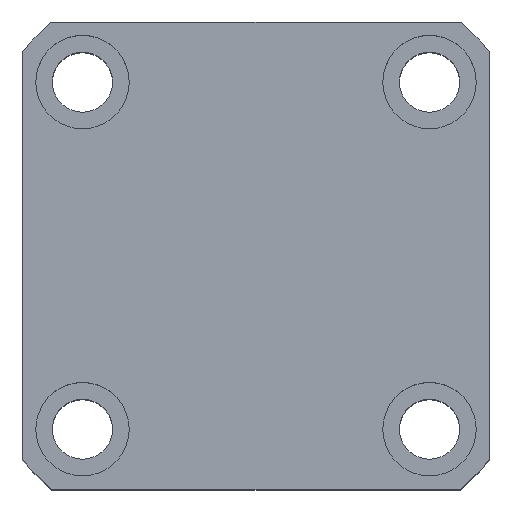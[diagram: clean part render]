
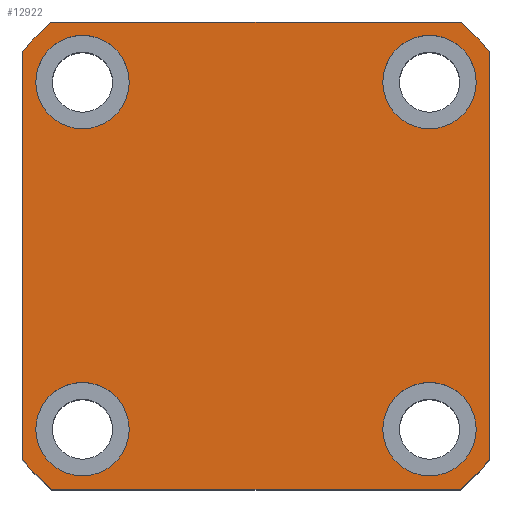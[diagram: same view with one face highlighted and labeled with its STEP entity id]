
A CAD part, top view. The second image highlights one B-rep face of the part: STEP entity #12922.
In plain terms, the highlighted planar face has unit normal (0, 0, 1).
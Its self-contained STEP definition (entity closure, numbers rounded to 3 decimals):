
#27 = DIRECTION ( 'NONE',  ( 0., 0., 1. ) ) ;
#38 = EDGE_LOOP ( 'NONE', ( #413, #6936 ) ) ;
#100 = CARTESIAN_POINT ( 'NONE',  ( 0., 0., 70. ) ) ;
#149 = ORIENTED_EDGE ( 'NONE', *, *, #10955, .F. ) ;
#156 = AXIS2_PLACEMENT_3D ( 'NONE', #100, #6372, #12611 ) ;
#221 = EDGE_LOOP ( 'NONE', ( #844, #534 ) ) ;
#389 = CARTESIAN_POINT ( 'NONE',  ( 0., 0., 70. ) ) ;
#413 = ORIENTED_EDGE ( 'NONE', *, *, #11944, .F. ) ;
#534 = ORIENTED_EDGE ( 'NONE', *, *, #9548, .F. ) ;
#551 = DIRECTION ( 'NONE',  ( 0., 0., 1. ) ) ;
#578 = EDGE_CURVE ( 'NONE', #8503, #8902, #7263, .T. ) ;
#663 = CARTESIAN_POINT ( 'NONE',  ( 35., 35., 70. ) ) ;
#768 = ORIENTED_EDGE ( 'NONE', *, *, #1852, .F. ) ;
#844 = ORIENTED_EDGE ( 'NONE', *, *, #4444, .F. ) ;
#973 = CARTESIAN_POINT ( 'NONE',  ( 19., 26., 70. ) ) ;
#1040 = CARTESIAN_POINT ( 'NONE',  ( -30.615, -35., 70. ) ) ;
#1053 = CIRCLE ( 'NONE', #9252, 7. ) ;
#1076 = CARTESIAN_POINT ( 'NONE',  ( -26., 26., 70. ) ) ;
#1204 = CIRCLE ( 'NONE', #2853, 7. ) ;
#1215 = LINE ( 'NONE', #663, #9199 ) ;
#1370 = DIRECTION ( 'NONE',  ( 0., 0., 1. ) ) ;
#1517 = CIRCLE ( 'NONE', #10084, 7. ) ;
#1574 = CARTESIAN_POINT ( 'NONE',  ( -26., -26., 70. ) ) ;
#1719 = VECTOR ( 'NONE', #4085, 1000. ) ;
#1725 = DIRECTION ( 'NONE',  ( 0., 1., 0. ) ) ;
#1852 = EDGE_CURVE ( 'NONE', #3552, #7673, #5650, .T. ) ;
#1957 = CARTESIAN_POINT ( 'NONE',  ( -33., -26., 70. ) ) ;
#2087 = CIRCLE ( 'NONE', #12502, 46.5 ) ;
#2135 = DIRECTION ( 'NONE',  ( 1., 0., 0. ) ) ;
#2209 = FACE_OUTER_BOUND ( 'NONE', #6251, .T. ) ;
#2406 = EDGE_CURVE ( 'NONE', #5632, #2567, #13474, .T. ) ;
#2485 = EDGE_CURVE ( 'NONE', #12648, #5632, #8222, .T. ) ;
#2567 = VERTEX_POINT ( 'NONE', #3318 ) ;
#2631 = DIRECTION ( 'NONE',  ( 1., 0., 0. ) ) ;
#2753 = EDGE_CURVE ( 'NONE', #7539, #8019, #1053, .T. ) ;
#2793 = DIRECTION ( 'NONE',  ( 0., 0., 1. ) ) ;
#2853 = AXIS2_PLACEMENT_3D ( 'NONE', #9014, #2793, #10071 ) ;
#2865 = FACE_BOUND ( 'NONE', #3052, .T. ) ;
#2954 = CARTESIAN_POINT ( 'NONE',  ( 19., -26., 70. ) ) ;
#3003 = ORIENTED_EDGE ( 'NONE', *, *, #578, .T. ) ;
#3052 = EDGE_LOOP ( 'NONE', ( #13300, #149 ) ) ;
#3301 = EDGE_CURVE ( 'NONE', #11129, #6616, #1215, .T. ) ;
#3318 = CARTESIAN_POINT ( 'NONE',  ( -35., 30.615, 70. ) ) ;
#3552 = VERTEX_POINT ( 'NONE', #2954 ) ;
#3650 = DIRECTION ( 'NONE',  ( 0., 0., 1. ) ) ;
#3664 = ORIENTED_EDGE ( 'NONE', *, *, #2406, .T. ) ;
#3697 = CIRCLE ( 'NONE', #7466, 7. ) ;
#3914 = CARTESIAN_POINT ( 'NONE',  ( 33., -26., 70. ) ) ;
#3978 = ORIENTED_EDGE ( 'NONE', *, *, #2485, .T. ) ;
#4023 = CIRCLE ( 'NONE', #7378, 7. ) ;
#4085 = DIRECTION ( 'NONE',  ( 1., 0., 0. ) ) ;
#4382 = CIRCLE ( 'NONE', #4995, 46.5 ) ;
#4392 = CARTESIAN_POINT ( 'NONE',  ( 35., -30.615, 70. ) ) ;
#4425 = EDGE_CURVE ( 'NONE', #8902, #11129, #10169, .T. ) ;
#4444 = EDGE_CURVE ( 'NONE', #11999, #12427, #1517, .T. ) ;
#4531 = EDGE_CURVE ( 'NONE', #7673, #3552, #1204, .T. ) ;
#4570 = CARTESIAN_POINT ( 'NONE',  ( 0., 0., 70. ) ) ;
#4627 = EDGE_LOOP ( 'NONE', ( #13418, #768 ) ) ;
#4700 = VERTEX_POINT ( 'NONE', #1957 ) ;
#4992 = FACE_BOUND ( 'NONE', #221, .T. ) ;
#4995 = AXIS2_PLACEMENT_3D ( 'NONE', #4570, #11848, #5604 ) ;
#5071 = DIRECTION ( 'NONE',  ( 0., 0., 1. ) ) ;
#5285 = DIRECTION ( 'NONE',  ( 0., 0., 1. ) ) ;
#5311 = CARTESIAN_POINT ( 'NONE',  ( 26., 26., 70. ) ) ;
#5348 = VERTEX_POINT ( 'NONE', #10928 ) ;
#5444 = ORIENTED_EDGE ( 'NONE', *, *, #9746, .T. ) ;
#5604 = DIRECTION ( 'NONE',  ( 1., 0., 0. ) ) ;
#5632 = VERTEX_POINT ( 'NONE', #6234 ) ;
#5650 = CIRCLE ( 'NONE', #13288, 7. ) ;
#5857 = ORIENTED_EDGE ( 'NONE', *, *, #3301, .T. ) ;
#5875 = CARTESIAN_POINT ( 'NONE',  ( -26., 26., 70. ) ) ;
#5891 = CARTESIAN_POINT ( 'NONE',  ( 35., 30.615, 70. ) ) ;
#5934 = VERTEX_POINT ( 'NONE', #6642 ) ;
#6234 = CARTESIAN_POINT ( 'NONE',  ( -30.615, 35., 70. ) ) ;
#6251 = EDGE_LOOP ( 'NONE', ( #5857, #5444, #3978, #3664, #9960, #11491, #3003, #11494 ) ) ;
#6372 = DIRECTION ( 'NONE',  ( 0., 0., 1. ) ) ;
#6564 = DIRECTION ( 'NONE',  ( 0., 0., 1. ) ) ;
#6616 = VERTEX_POINT ( 'NONE', #5891 ) ;
#6642 = CARTESIAN_POINT ( 'NONE',  ( -35., -30.615, 70. ) ) ;
#6806 = CARTESIAN_POINT ( 'NONE',  ( 33., 26., 70. ) ) ;
#6818 = CARTESIAN_POINT ( 'NONE',  ( 0., 0., 70. ) ) ;
#6897 = DIRECTION ( 'NONE',  ( 1., 0., 0. ) ) ;
#6936 = ORIENTED_EDGE ( 'NONE', *, *, #2753, .F. ) ;
#7164 = CARTESIAN_POINT ( 'NONE',  ( -35., -35., 70. ) ) ;
#7263 = LINE ( 'NONE', #7164, #1719 ) ;
#7362 = CARTESIAN_POINT ( 'NONE',  ( -19., 26., 70. ) ) ;
#7378 = AXIS2_PLACEMENT_3D ( 'NONE', #11545, #5285, #12585 ) ;
#7466 = AXIS2_PLACEMENT_3D ( 'NONE', #11303, #5071, #12372 ) ;
#7539 = VERTEX_POINT ( 'NONE', #973 ) ;
#7612 = CARTESIAN_POINT ( 'NONE',  ( 0., 0., 70. ) ) ;
#7673 = VERTEX_POINT ( 'NONE', #3914 ) ;
#7721 = EDGE_CURVE ( 'NONE', #2567, #5934, #13164, .T. ) ;
#7726 = FACE_BOUND ( 'NONE', #38, .T. ) ;
#7780 = PLANE ( 'NONE',  #11284 ) ;
#7838 = DIRECTION ( 'NONE',  ( 1., 0., 0. ) ) ;
#8019 = VERTEX_POINT ( 'NONE', #6806 ) ;
#8222 = LINE ( 'NONE', #12351, #10357 ) ;
#8352 = DIRECTION ( 'NONE',  ( 0., 0., 1. ) ) ;
#8367 = CARTESIAN_POINT ( 'NONE',  ( 26., -26., 70. ) ) ;
#8503 = VERTEX_POINT ( 'NONE', #1040 ) ;
#8652 = DIRECTION ( 'NONE',  ( 1., 0., 0. ) ) ;
#8867 = DIRECTION ( 'NONE',  ( 0., 0., 1. ) ) ;
#8902 = VERTEX_POINT ( 'NONE', #11057 ) ;
#9014 = CARTESIAN_POINT ( 'NONE',  ( 26., -26., 70. ) ) ;
#9109 = EDGE_CURVE ( 'NONE', #5934, #8503, #2087, .T. ) ;
#9179 = DIRECTION ( 'NONE',  ( -1., 0., 0. ) ) ;
#9199 = VECTOR ( 'NONE', #1725, 1000. ) ;
#9252 = AXIS2_PLACEMENT_3D ( 'NONE', #5311, #6564, #9444 ) ;
#9444 = DIRECTION ( 'NONE',  ( 1., 0., 0. ) ) ;
#9548 = EDGE_CURVE ( 'NONE', #12427, #11999, #10555, .T. ) ;
#9706 = CIRCLE ( 'NONE', #9985, 7. ) ;
#9746 = EDGE_CURVE ( 'NONE', #6616, #12648, #4382, .T. ) ;
#9960 = ORIENTED_EDGE ( 'NONE', *, *, #7721, .T. ) ;
#9985 = AXIS2_PLACEMENT_3D ( 'NONE', #1574, #8867, #2631 ) ;
#10071 = DIRECTION ( 'NONE',  ( 1., 0., 0. ) ) ;
#10084 = AXIS2_PLACEMENT_3D ( 'NONE', #5875, #13163, #6897 ) ;
#10169 = CIRCLE ( 'NONE', #12207, 46.5 ) ;
#10319 = CARTESIAN_POINT ( 'NONE',  ( -33., 26., 70. ) ) ;
#10357 = VECTOR ( 'NONE', #9179, 1000. ) ;
#10504 = FACE_BOUND ( 'NONE', #4627, .T. ) ;
#10555 = CIRCLE ( 'NONE', #12935, 7. ) ;
#10635 = CARTESIAN_POINT ( 'NONE',  ( 30.615, 35., 70. ) ) ;
#10928 = CARTESIAN_POINT ( 'NONE',  ( -19., -26., 70. ) ) ;
#10934 = DIRECTION ( 'NONE',  ( 1., 0., 0. ) ) ;
#10955 = EDGE_CURVE ( 'NONE', #4700, #5348, #3697, .T. ) ;
#11057 = CARTESIAN_POINT ( 'NONE',  ( 30.615, -35., 70. ) ) ;
#11129 = VERTEX_POINT ( 'NONE', #4392 ) ;
#11279 = CARTESIAN_POINT ( 'NONE',  ( -35., 35., 70. ) ) ;
#11284 = AXIS2_PLACEMENT_3D ( 'NONE', #389, #3650, #10934 ) ;
#11303 = CARTESIAN_POINT ( 'NONE',  ( -26., -26., 70. ) ) ;
#11319 = EDGE_CURVE ( 'NONE', #5348, #4700, #9706, .T. ) ;
#11491 = ORIENTED_EDGE ( 'NONE', *, *, #9109, .T. ) ;
#11494 = ORIENTED_EDGE ( 'NONE', *, *, #4425, .T. ) ;
#11545 = CARTESIAN_POINT ( 'NONE',  ( 26., 26., 70. ) ) ;
#11848 = DIRECTION ( 'NONE',  ( 0., 0., 1. ) ) ;
#11944 = EDGE_CURVE ( 'NONE', #8019, #7539, #4023, .T. ) ;
#11999 = VERTEX_POINT ( 'NONE', #7362 ) ;
#12207 = AXIS2_PLACEMENT_3D ( 'NONE', #6818, #551, #7838 ) ;
#12351 = CARTESIAN_POINT ( 'NONE',  ( -35., 35., 70. ) ) ;
#12372 = DIRECTION ( 'NONE',  ( 1., 0., 0. ) ) ;
#12427 = VERTEX_POINT ( 'NONE', #10319 ) ;
#12502 = AXIS2_PLACEMENT_3D ( 'NONE', #7612, #1370, #8652 ) ;
#12520 = VECTOR ( 'NONE', #13352, 1000. ) ;
#12557 = DIRECTION ( 'NONE',  ( 1., 0., 0. ) ) ;
#12585 = DIRECTION ( 'NONE',  ( 1., 0., 0. ) ) ;
#12611 = DIRECTION ( 'NONE',  ( 1., 0., 0. ) ) ;
#12648 = VERTEX_POINT ( 'NONE', #10635 ) ;
#12922 = ADVANCED_FACE ( 'NONE', ( #2865, #10504, #7726, #4992, #2209 ), #7780, .T. ) ;
#12935 = AXIS2_PLACEMENT_3D ( 'NONE', #1076, #8352, #2135 ) ;
#13163 = DIRECTION ( 'NONE',  ( 0., 0., 1. ) ) ;
#13164 = LINE ( 'NONE', #11279, #12520 ) ;
#13288 = AXIS2_PLACEMENT_3D ( 'NONE', #8367, #27, #12557 ) ;
#13300 = ORIENTED_EDGE ( 'NONE', *, *, #11319, .F. ) ;
#13352 = DIRECTION ( 'NONE',  ( 0., -1., 0. ) ) ;
#13418 = ORIENTED_EDGE ( 'NONE', *, *, #4531, .F. ) ;
#13474 = CIRCLE ( 'NONE', #156, 46.5 ) ;
